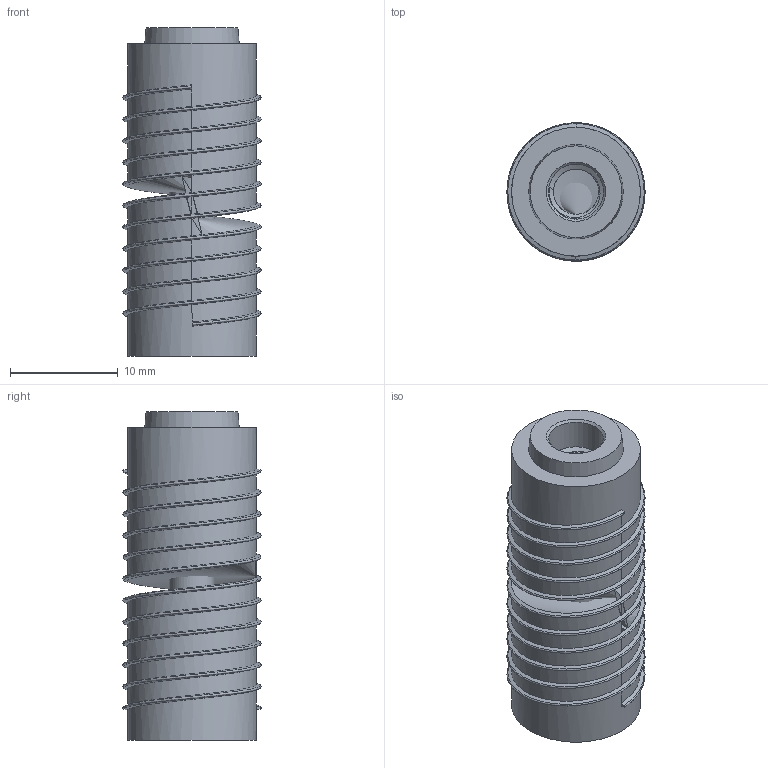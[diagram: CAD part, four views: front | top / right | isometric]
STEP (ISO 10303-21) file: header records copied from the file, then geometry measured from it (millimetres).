
FILE_DESCRIPTION(/* description */ (''),/* implementation_level */ '2;1');
FILE_NAME(/* name */ 'C:\Users\matthiask.LAMELLONET\Desktop\Invis_Mx2_Eindrehmutter_30mm.stp',/* time_stamp */ '2021-07-08T08:53:16+02:00',/* author */ ('matthiask'),/* organization */ (''),/* preprocessor_version */ 'ST-DEVELOPER v18',/* originating_system */ 'Autodesk Inventor 2020',/* authorisation */ '');
FILE_SCHEMA (('AUTOMOTIVE_DESIGN { 1 0 10303 214 3 1 1 }'));
Length unit declared in the file: millimetre
Products named in the file (1): Eindrehmutter 30mm
Bounding box: 12.8 x 12.8 x 30.5 mm (x, y, z)
Volume: 3007.5 mm3; surface area: 2228.5 mm2
Topology: 1 solids, 1 shells, 51 faces, 139 edges, 92 vertices
Faces by surface type: cylinder 29, bspline 9, plane 9, cone 4
Full cylindrical faces by diameter (mm): 4.2 x15, 5.1 x1, 11.95 x12
Entity records: 7442 total; most frequent: CARTESIAN_POINT 6230, ORIENTED_EDGE 278, DIRECTION 188, EDGE_CURVE 139, VERTEX_POINT 92, AXIS2_PLACEMENT_3D 69, B_SPLINE_CURVE_WITH_KNOTS 63, EDGE_LOOP 55
